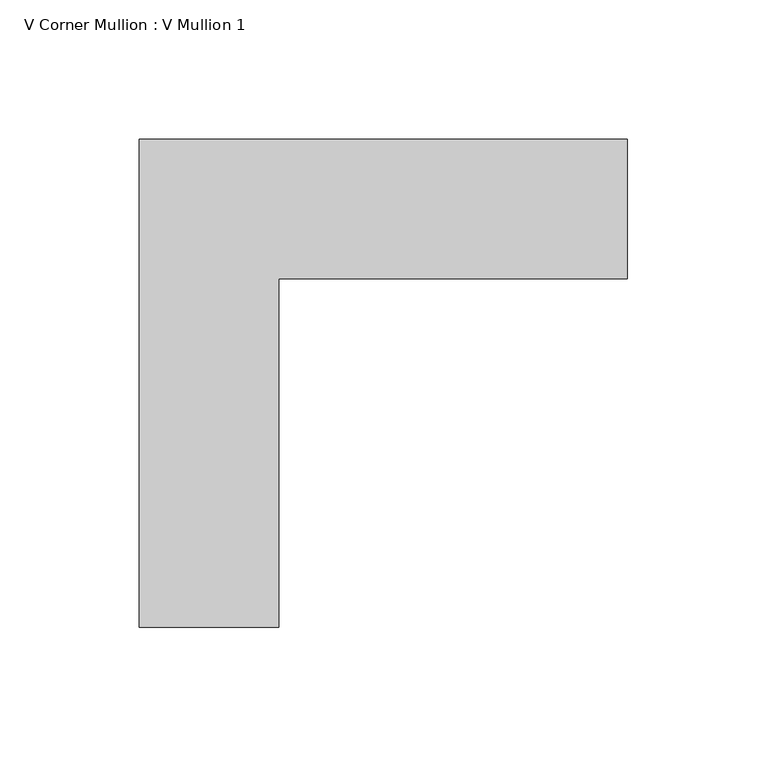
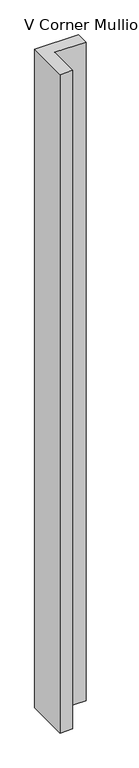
"""IFC4 building model written with IfcOpenShell, lengths in millimetres: member geometry, V Corner Mullion : V Mullion 1."""

from ifc_helpers import new_model, si_unit, frame, origin, place, context, project, spatial, polyline, outline, extrude, source, transform, mapped, element, save


def v_corner_mullion_v_mullion_1_9a63857a(model_context):
    return source(origin(), model_context, "Body", "SweptSolid", [
        extrude(outline(polyline([(75.0, 50.0), (-50.0, 50.0), (-50.0, -75.0), (-100.0, -75.0), (-100.0, 100.0), (75.0, 100.0), (75.0, 50.0)])), frame((0.0, 0.0, -2775.0), z_axis=(0.0, 0.0, 1.0), x_axis=(1.0, 0.0, 0.0)), (0.0, 0.0, 1.0), 2775.0),
    ])


if __name__ == "__main__":
    model = new_model("IFC4")
    model_context = context("Model", 3, world=origin())
    ifc_project = project(units=[si_unit("LENGTHUNIT", "METRE", prefix="MILLI")], contexts=[model_context])
    site = spatial("IfcSite", under=ifc_project)
    building = spatial("IfcBuilding", under=site)
    placement = place(None, origin())
    v_corner_mullion_v_mullion_1_shape = v_corner_mullion_v_mullion_1_9a63857a(model_context)
    element("IfcMember", 1, ObjectType="V Corner Mullion : V Mullion 1", at=placement, inside=building, context=model_context, shape_type="MappedRepresentation", body=[
        mapped(v_corner_mullion_v_mullion_1_shape, transform((0.0, 0.0, 0.0), x_axis=(1.0, 0.0, 0.0), y_axis=(0.0, 1.0, 0.0), z_axis=(0.0, 0.0, 1.0))),
    ])
    save(model, "model.ifc")
